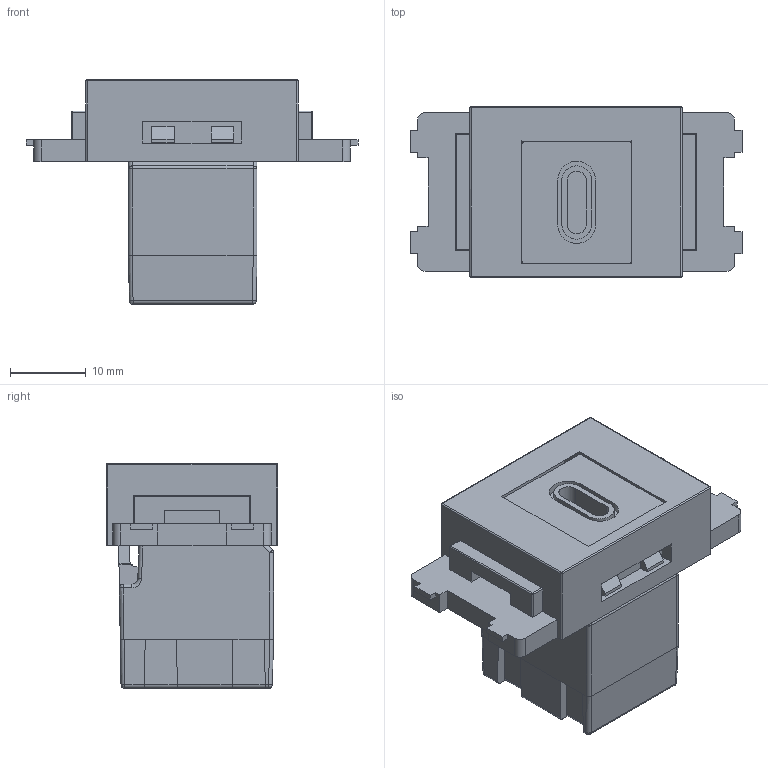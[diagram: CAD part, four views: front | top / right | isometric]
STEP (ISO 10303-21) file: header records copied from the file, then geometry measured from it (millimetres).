
FILE_DESCRIPTION(('FreeCAD Model'),'2;1');
FILE_NAME('Open CASCADE Shape Model','2026-05-12T09:41:55',(''),(''), 'Open CASCADE STEP processor 7.8','FreeCAD','Unknown');
FILE_SCHEMA(('AUTOMOTIVE_DESIGN { 1 0 10303 214 1 1 1 1 }'));
Length unit declared in the file: millimetre
Products named in the file (3): CC_USB3C_XX_KH_2; SY-NWT-KH-xx; SY-USB-31-C-WH
Assembly tree (2 placements, depth 2):
  CC_USB3C_XX_KH_2
    SY-NWT-KH-xx
    SY-USB-31-C-WH
Bounding box: 43.95 x 22.65 x 29.75 mm (x, y, z)
Volume: 11637.4 mm3; surface area: 7396.5 mm2
Topology: 4 solids, 4 shells, 267 faces, 1453 edges, 3470 vertices
Faces by surface type: bspline 267
Entity records: 27342 total; most frequent: CARTESIAN_POINT 18670, B_SPLINE_CURVE_WITH_KNOTS 1451, ORIENTED_EDGE 1382, GEOMETRIC_CURVE_SET 761, TRIMMED_CURVE 756, EDGE_CURVE 691, VERTEX_POINT 434, FACE_BOUND 279
